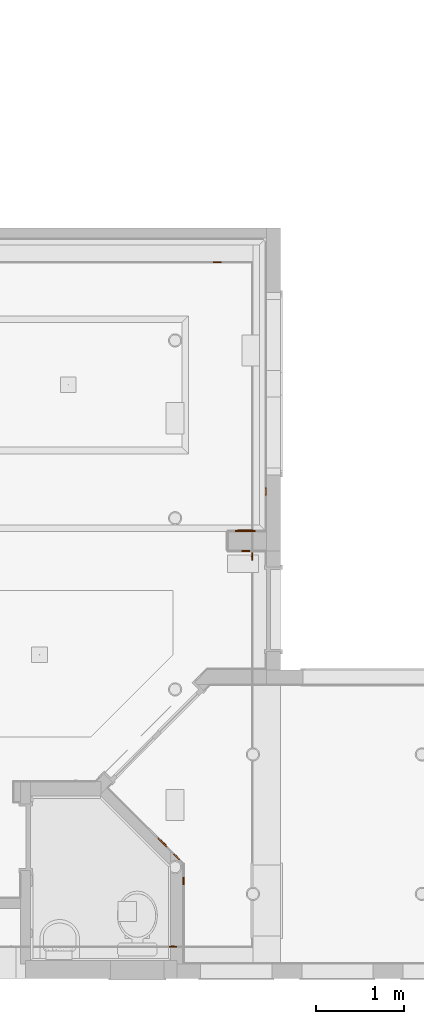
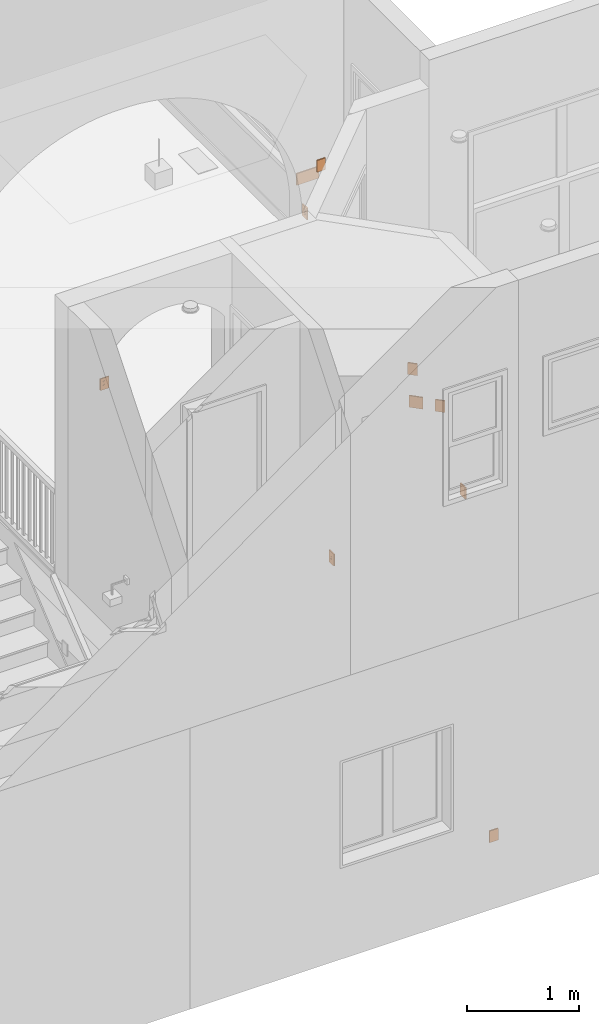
# One storey, part 56 of 60: 10 proxies.
"""IFC2X3 building model written with IfcOpenShell, lengths in feet."""

from ifc_helpers import new_model, entity, si_unit, converted_unit, direction, frame, frame_2d, origin, origin_2d_with_axis, place, context, subcontext, project, spatial, polyline, circle_curve, parameter, trimmed, segment, composite_curve, rectangle, outline, extrude, source, transform, mapped, material, type_object, type_shapes, element, save


model = new_model("IFC2X3")

# Units and contexts
model_context = context("Model", 3, precision=0.0001, world=origin(), true_north=direction((6.123031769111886e-17, 1.0)))
plan_context = context("Plan", 3, precision=0.0001, world=origin(), true_north=direction((6.123031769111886e-17, 1.0)))
body_context = subcontext(model_context, "Body", "Model", "MODEL_VIEW")
ifc_project = project(units=[converted_unit("LENGTHUNIT", "FOOT", entity("IfcLengthMeasure", 0.3048), si_unit("LENGTHUNIT", "METRE"), dimensions=[1, 0, 0, 0, 0, 0, 0]), converted_unit("AREAUNIT", "SQUARE FOOT", entity("IfcAreaMeasure", 0.09290304), si_unit("AREAUNIT", "SQUARE_METRE"), dimensions=[2, 0, 0, 0, 0, 0, 0]), converted_unit("PLANEANGLEUNIT", "DEGREE", entity("IfcPlaneAngleMeasure", 0.017453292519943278), si_unit("PLANEANGLEUNIT", "RADIAN"), dimensions=[0, 0, 0, 0, 0, 0, 0])], contexts=[model_context, plan_context])

# Site, building, storey
site_placement = place(None, origin())
site = spatial("IfcSite", under=ifc_project, at=site_placement, Name="Default", CompositionType="ELEMENT")
building_placement = place(site_placement, origin())
building = spatial("IfcBuilding", under=site, at=building_placement, CompositionType="ELEMENT")
storey_placement = place(building_placement, origin())
storey = spatial("IfcBuildingStorey", under=building, at=storey_placement, Name="First floor", CompositionType="ELEMENT", Elevation=0.0)

# Proxies
ifc_material = material(Name="Default New Material")
building_element_proxy_type_1 = type_object("IfcBuildingElementProxyType", Name="switch 4:switch 4", PredefinedType="NOTDEFINED", material=ifc_material)
shared_shape_1 = source(origin(), body_context, "Body", "SweptSolid", [
    extrude(outline(composite_curve([segment(polyline([(-0.030916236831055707, -0.046587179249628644), (0.030916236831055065, -0.046587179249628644)]), True, "CONTINUOUS"), segment(trimmed(circle_curve(frame_2d((-0.00026496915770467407, 0.0), x_axis=(-1.0, 0.0)), 0.056059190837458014), [parameter(123.79474084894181)], [parameter(236.20525915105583)], True, "PARAMETER"), True, "CONTINUOUS"), segment(polyline([(0.030916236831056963, 0.04658717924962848), (-0.030916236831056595, 0.04658717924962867)]), True, "CONTINUOUS"), segment(trimmed(circle_curve(frame_2d((0.00026496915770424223, 0.0), x_axis=(-1.0, 0.0)), 0.056059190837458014), [parameter(303.79474084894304)], [parameter(56.2052591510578)], True, "PARAMETER"), True, "CONTINUOUS")], self_intersect=False), holes=[polyline([(0.01416238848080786, 0.027928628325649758), (0.026173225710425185, 0.02792862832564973), (0.026173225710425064, -0.006935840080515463), (0.01416238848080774, -0.006935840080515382), (0.01416238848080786, 0.027928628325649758)]), polyline([(-0.015270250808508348, 0.025046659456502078), (-0.015270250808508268, -0.004483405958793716), (-0.0278178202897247, -0.0044834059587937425), (-0.027817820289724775, 0.025046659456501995), (-0.015270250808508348, 0.025046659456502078)]), composite_curve([segment(polyline([(-0.01203154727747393, -0.041319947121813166), (-0.01203154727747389, -0.030018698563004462)]), True, "CONTINUOUS"), segment(trimmed(circle_curve(frame_2d((-0.00028489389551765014, -0.03001869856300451), x_axis=(-1.0, 0.0)), 0.011746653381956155), [parameter(180.00000000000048)], [parameter(3.5622212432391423e-13)], True, "PARAMETER"), False, "CONTINUOUS"), segment(polyline([(0.011461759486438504, -0.030018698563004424), (0.01146175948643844, -0.04131994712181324)]), True, "CONTINUOUS"), segment(polyline([(0.01146175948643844, -0.04131994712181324), (-0.01203154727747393, -0.041319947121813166)]), True, "CONTINUOUS")], self_intersect=False)]), frame((-0.0011190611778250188, 0.2703726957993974, 0.041666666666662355)), (0.0, 0.0, 1.0), 0.004209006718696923),
    extrude(outline(composite_curve([segment(polyline([(-0.030763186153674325, -0.04635654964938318), (0.030763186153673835, -0.04635654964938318)]), True, "CONTINUOUS"), segment(trimmed(circle_curve(frame_2d((-0.00026365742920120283, 0.0), x_axis=(-1.0, 0.0)), 0.05578167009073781), [parameter(123.79474084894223)], [parameter(236.20525915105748)], True, "PARAMETER"), True, "CONTINUOUS"), segment(polyline([(0.030763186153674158, 0.04635654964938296), (-0.030763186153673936, 0.04635654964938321)]), True, "CONTINUOUS"), segment(trimmed(circle_curve(frame_2d((0.0002636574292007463, 0.0), x_axis=(-1.0, 0.0)), 0.05578167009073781), [parameter(303.7947408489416)], [parameter(56.205259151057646)], True, "PARAMETER"), True, "CONTINUOUS")], self_intersect=False), holes=[polyline([(0.014092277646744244, 0.024722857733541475), (0.02604365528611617, 0.024722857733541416), (0.026043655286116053, -0.004727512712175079), (0.014092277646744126, -0.004727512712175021), (0.014092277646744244, 0.024722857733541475)]), polyline([(-0.01519465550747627, 0.024922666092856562), (-0.015194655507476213, -0.004461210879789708), (-0.027680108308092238, -0.00446121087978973), (-0.027680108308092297, 0.02492266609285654), (-0.01519465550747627, 0.024922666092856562)]), composite_curve([segment(polyline([(-0.011971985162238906, -0.04111539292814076), (-0.011971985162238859, -0.029870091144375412)]), True, "CONTINUOUS"), segment(trimmed(circle_curve(frame_2d((-0.00028348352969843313, -0.029870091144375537), x_axis=(-1.0, 0.0)), 0.011688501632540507), [parameter(179.9999999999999)], [parameter(0.0)], True, "PARAMETER"), False, "CONTINUOUS"), segment(polyline([(0.011405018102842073, -0.029870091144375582), (0.011405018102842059, -0.04111539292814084)]), True, "CONTINUOUS"), segment(polyline([(0.011405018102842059, -0.04111539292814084), (-0.011971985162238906, -0.04111539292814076)]), True, "CONTINUOUS")], self_intersect=False)]), frame((-0.0011190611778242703, 0.14560208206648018, 0.041666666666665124)), (0.0, 0.0, 1.0), 0.004209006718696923),
    extrude(rectangle(XDim=0.41666666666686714, YDim=0.2916666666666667, at=origin_2d_with_axis()), frame((0.0, 0.2083333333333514, 0.0), z_axis=(0.0, 0.0, 1.0), x_axis=(0.0, -1.0, 0.0)), (0.0, 0.0, 1.0), 0.041666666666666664),
])
type_shapes(building_element_proxy_type_1, [shared_shape_1])
for number, where, z_axis, x_axis, name in (
    (1, (32.0, 3.6526692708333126, 11.625000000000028), (1.0, 0.0, 0.0), (0.0, 1.0, 0.0), "switch 4:switch 4"),
    (2, (35.12500000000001, 18.250000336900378, 11.66666666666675), (-1.0, 0.0, 0.0), (0.0, -1.0, 0.0), "switch 4:switch 4"),
    (3, (33.29166666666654, 26.875, 0.958335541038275), (0.0, -1.0, 0.0), (1.0, 0.0, 0.0), "switch 4:switch 4"),
    (4, (31.624999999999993, 1.166666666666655, 0.9583355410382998), (0.0, 1.0, 0.0), (-1.0, 0.0, 0.0), "switch 4:switch 4"),
):
    element("IfcBuildingElementProxy", number, at=place(storey_placement, frame(where, z_axis=z_axis, x_axis=x_axis)), inside=storey, type_object=building_element_proxy_type_1, material=ifc_material, Name=name, ObjectType="switch 4:switch 4", context=body_context, shape_type="MappedRepresentation", body=[
        mapped(shared_shape_1, transform((0.0, 0.0, 0.0), scale=1.0)),
    ])
building_element_proxy_type_2 = type_object("IfcBuildingElementProxyType", Name="switch 1:switch 1", PredefinedType="NOTDEFINED", material=ifc_material)
shared_shape_2 = source(origin(), body_context, "Body", "SweptSolid", [
    extrude(rectangle(XDim=0.29166666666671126, YDim=0.41666666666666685, at=frame_2d((0.0, 2.7755575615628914e-17), x_axis=(1.0, 0.0))), frame((0.0, 0.20833333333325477, 0.0)), (0.0, 0.0, 1.0), 0.041666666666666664),
])
type_shapes(building_element_proxy_type_2, [shared_shape_2])
for number, where, z_axis, x_axis, name in (
    (5, (31.749566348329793, 4.542100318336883, 14.20833333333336), (0.7071067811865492, 0.7071067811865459, 0.0), (-0.7071067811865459, 0.7071067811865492, 0.0), "switch 1:switch 1"),
    (6, (31.160310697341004, 5.131355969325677, 15.375000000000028), (0.7071067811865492, 0.7071067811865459, 0.0), (-0.7071067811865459, 0.7071067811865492, 0.0), "switch 1:switch 1"),
    (7, (34.354166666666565, 16.041667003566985, 14.958333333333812), (0.0, -1.0, 0.0), (1.0, 0.0, 0.0), "switch 1:switch 1"),
):
    element("IfcBuildingElementProxy", number, at=place(storey_placement, frame(where, z_axis=z_axis, x_axis=x_axis)), inside=storey, type_object=building_element_proxy_type_2, material=ifc_material, Name=name, ObjectType="switch 1:switch 1", context=body_context, shape_type="MappedRepresentation", body=[
        mapped(shared_shape_2, transform((0.0, 0.0, 0.0), scale=1.0)),
    ])
building_element_proxy_type_3 = type_object("IfcBuildingElementProxyType", Name="switch 6:switch 6", PredefinedType="NOTDEFINED", material=ifc_material)
shared_shape_3 = source(origin(), body_context, "Body", "SweptSolid", [
    extrude(outline(polyline([(-0.025444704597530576, -0.10104762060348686), (-0.007049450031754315, -0.10104762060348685), (-0.005760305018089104, -0.027097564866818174), (0.02168554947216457, 0.1140991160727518), (0.0165689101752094, 0.11509369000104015), (-0.025444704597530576, -0.10104762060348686)])), frame((0.015553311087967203, 0.21435624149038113, 0.047363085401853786), z_axis=(1.0, 0.0, 0.0), x_axis=(0.0, -0.19080899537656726, 0.9816271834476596)), (0.0, 0.0, 1.0), 0.11722231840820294),
    extrude(outline(polyline([(-0.10560931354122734, -0.005954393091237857), (0.11457744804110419, -0.005954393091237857), (0.11457744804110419, -0.0007419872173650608), (-0.02169697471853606, -0.0007419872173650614), (-0.10184860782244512, 0.013392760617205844), (-0.10560931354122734, -0.005954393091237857)])), frame((-0.1301384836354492, 0.20531775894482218, 0.047621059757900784), z_axis=(1.0, 0.0, 0.0), x_axis=(0.0, 1.0, 0.0)), (0.0, 0.0, 1.0), 0.11504888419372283),
    extrude(rectangle(XDim=0.41666666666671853, YDim=0.41666666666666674, at=origin_2d_with_axis()), frame((0.0, 0.20833333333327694, 0.0), z_axis=(0.0, 0.0, 1.0), x_axis=(0.0, -1.0, 0.0)), (0.0, 0.0, 1.0), 0.041666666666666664),
])
type_shapes(building_element_proxy_type_3, [shared_shape_3])
proxy_1_placement = place(storey_placement, frame((31.233967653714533, 5.0576990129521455, 14.20833333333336), z_axis=(0.7071067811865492, 0.7071067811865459, 0.0), x_axis=(-0.7071067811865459, 0.7071067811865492, 0.0)))
element("IfcBuildingElementProxy", 8, at=proxy_1_placement, inside=storey, type_object=building_element_proxy_type_3, material=ifc_material, Name="switch 6:switch 6", ObjectType="switch 6:switch 6", context=body_context, shape_type="MappedRepresentation", body=[
    mapped(shared_shape_3, transform((0.0, 0.0, 0.0), scale=1.0)),
])
building_element_proxy_type_4 = type_object("IfcBuildingElementProxyType", Name="switch 22:switch 22", PredefinedType="NOTDEFINED", material=ifc_material)
shared_shape_4 = source(origin(), body_context, "Body", "SweptSolid", [
    extrude(outline(polyline([(-0.1024795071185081, -0.006558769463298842), (0.11153581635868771, -0.006558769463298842), (0.11153581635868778, -0.00013120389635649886), (-0.02198831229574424, -0.00013120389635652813), (-0.09860381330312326, 0.013379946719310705), (-0.1024795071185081, -0.006558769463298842)])), frame((0.16096584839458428, 0.2062485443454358, 0.048225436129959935), z_axis=(1.0, 0.0, 0.0), x_axis=(0.0, 1.0, 0.0)), (0.0, 0.0, 1.0), 0.12240828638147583),
    extrude(outline(polyline([(-0.10247950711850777, -0.006558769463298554), (0.11153581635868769, -0.006558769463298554), (0.1115358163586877, -0.00013120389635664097), (-0.021988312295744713, -0.0001312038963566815), (-0.09860381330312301, 0.013379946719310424), (-0.10247950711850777, -0.006558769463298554)])), frame((0.015378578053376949, 0.20624854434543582, 0.048225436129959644), z_axis=(1.0, 0.0, 0.0), x_axis=(0.0, 1.0, 0.0)), (0.0, 0.0, 1.0), 0.12240828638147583),
    extrude(outline(polyline([(-0.025847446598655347, -0.09895516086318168), (-0.0058806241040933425, -0.09895516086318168), (-0.004558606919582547, -0.023119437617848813), (0.02129807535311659, 0.10990166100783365), (0.01498860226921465, 0.11112809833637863), (-0.025847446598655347, -0.09895516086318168)])), frame((-0.1342669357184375, 0.21445876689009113, 0.04815768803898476), z_axis=(1.0, 0.0, 0.0), x_axis=(0.0, -0.19080899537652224, 0.9816271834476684)), (0.0, 0.0, 1.0), 0.1224082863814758),
    extrude(outline(polyline([(-0.025847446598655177, -0.09895516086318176), (-0.005880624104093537, -0.09895516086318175), (-0.004558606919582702, -0.02311943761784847), (0.021298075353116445, 0.10990166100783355), (0.014988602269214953, 0.11112809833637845), (-0.025847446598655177, -0.09895516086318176)])), frame((-0.2819047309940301, 0.21445876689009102, 0.048157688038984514), z_axis=(1.0, 0.0, 0.0), x_axis=(0.0, -0.19080899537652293, 0.9816271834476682)), (0.0, 0.0, 1.0), 0.12240828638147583),
    extrude(rectangle(XDim=0.7500000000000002, YDim=0.4166666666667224, at=frame_2d((2.7755575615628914e-17, 2.7755575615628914e-17), x_axis=(1.0, 0.0))), frame((0.0, 0.2083333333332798, 0.0)), (0.0, 0.0, 1.0), 0.041666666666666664),
])
type_shapes(building_element_proxy_type_4, [shared_shape_4])
proxy_2_placement = place(storey_placement, frame((34.33333333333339, 16.75000033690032, 14.12500000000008), z_axis=(0.0, 1.0, 0.0), x_axis=(-1.0, 0.0, 0.0)))
element("IfcBuildingElementProxy", 9, at=proxy_2_placement, inside=storey, type_object=building_element_proxy_type_4, material=ifc_material, Name="switch 22:switch 22", ObjectType="switch 22:switch 22", context=body_context, shape_type="MappedRepresentation", body=[
    mapped(shared_shape_4, transform((0.0, 0.0, 0.0), scale=1.0)),
])
building_element_proxy_type_5 = type_object("IfcBuildingElementProxyType", Name="switch 2:switch 2", PredefinedType="NOTDEFINED", material=ifc_material)
shared_shape_5 = source(origin(), body_context, "Body", "SweptSolid", [
    extrude(outline(composite_curve([segment(polyline([(-0.01790821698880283, -0.027579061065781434), (-0.005574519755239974, -0.027579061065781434)]), True, "CONTINUOUS"), segment(polyline([(-0.005574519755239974, -0.027579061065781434), (0.024554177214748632, 0.03726229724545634)]), True, "CONTINUOUS"), segment(trimmed(circle_curve(frame_2d((0.0226613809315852, 0.03384387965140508), x_axis=(0.4213849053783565, 0.9068818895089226)), 0.003907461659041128), [parameter(355.9485174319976)], [parameter(77.06487124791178)], True, "PARAMETER"), True, "CONTINUOUS"), segment(polyline([(0.019576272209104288, 0.036241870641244), (-0.00069665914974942, -0.007388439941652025)]), True, "CONTINUOUS"), segment(polyline([(-0.00069665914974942, -0.007388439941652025), (-0.01995105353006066, -0.010957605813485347)]), True, "CONTINUOUS"), segment(polyline([(-0.01995105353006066, -0.010957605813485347), (-0.01790821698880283, -0.027579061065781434)]), True, "CONTINUOUS")], self_intersect=False)), frame((-0.015122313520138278, 0.20253742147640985, 0.04823263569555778), z_axis=(1.0, 0.0, 0.0), x_axis=(0.0, 0.4213849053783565, -0.9068818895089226)), (0.0, 0.0, 1.0), 0.02873604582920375),
    extrude(outline(polyline([(-0.022653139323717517, -0.04469238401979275), (0.02265313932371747, -0.04469238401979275), (0.022653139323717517, 0.04469238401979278), (-0.02265313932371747, 0.04469238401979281), (-0.022653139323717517, -0.04469238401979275)]), holes=[polyline([(-0.013613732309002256, -0.03636308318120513), (-0.013613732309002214, 0.035707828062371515), (0.015122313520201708, 0.035707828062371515), (0.015122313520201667, -0.03636308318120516), (-0.013613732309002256, -0.03636308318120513)])]), frame((0.0, 0.21088528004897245, 0.04166666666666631), z_axis=(0.0, 0.0, 1.0), x_axis=(-1.0, 0.0, 0.0)), (0.0, 0.0, 1.0), 0.004209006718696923),
    extrude(rectangle(XDim=0.29166666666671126, YDim=0.41666666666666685, at=frame_2d((0.0, 2.7755575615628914e-17), x_axis=(1.0, 0.0))), frame((0.0, 0.20833333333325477, 0.0)), (0.0, 0.0, 1.0), 0.041666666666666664),
])
type_shapes(building_element_proxy_type_5, [shared_shape_5])
proxy_3_placement = place(storey_placement, frame((34.624999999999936, 15.81250000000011, 0.9583333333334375), z_axis=(-1.0, 0.0, 0.0), x_axis=(0.0, -1.0, 0.0)))
element("IfcBuildingElementProxy", 10, at=proxy_3_placement, inside=storey, type_object=building_element_proxy_type_5, material=ifc_material, Name="switch 2:switch 2", ObjectType="switch 2:switch 2", context=body_context, shape_type="MappedRepresentation", body=[
    mapped(shared_shape_5, transform((0.0, 0.0, 0.0), scale=1.0)),
])

save(model, "model.ifc")
